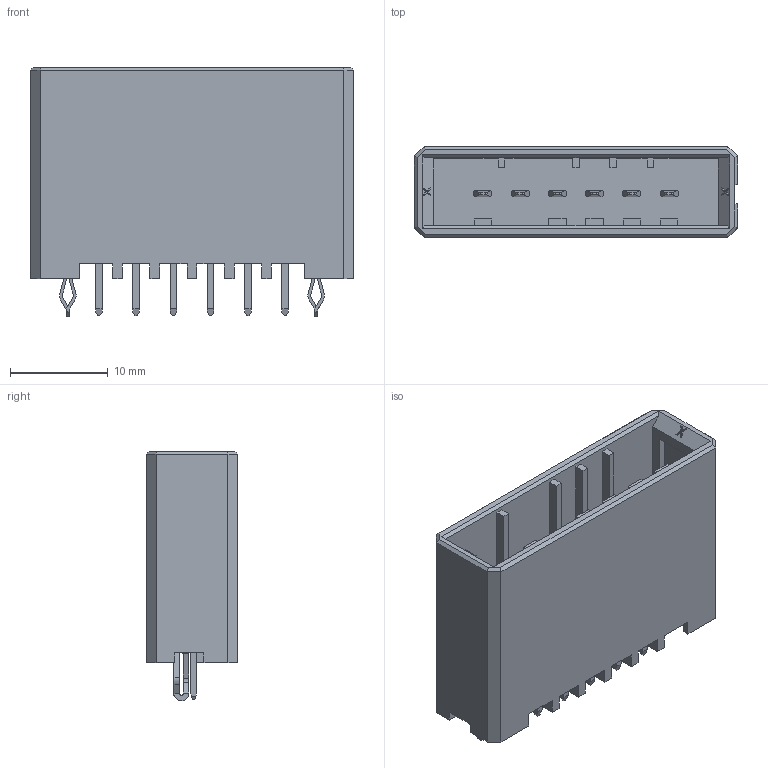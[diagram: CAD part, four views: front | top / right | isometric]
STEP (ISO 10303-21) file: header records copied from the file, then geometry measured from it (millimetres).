
FILE_DESCRIPTION (( 'STEP AP203' ), '1' );
FILE_NAME ('DK-3100S-06V-FA.STEP', '2023-10-13T00:42:38', ( '' ), ( '' ), 'SwSTEP 2.0', 'SolidWorks 2018', '' );
FILE_SCHEMA (( 'CONFIG_CONTROL_DESIGN' ));
Length unit declared in the file: millimetre
Products named in the file (1): DK-3100S-06V-FA
Bounding box: 33.05 x 9.35 x 25.5 mm (x, y, z)
Volume: 3028.7 mm3; surface area: 4420.4 mm2
Topology: 1 solids, 1 shells, 677 faces, 1897 edges, 1258 vertices
Faces by surface type: plane 479, bspline 148, cylinder 50
Entity records: 25810 total; most frequent: CARTESIAN_POINT 9427, ORIENTED_EDGE 3794, DIRECTION 2653, EDGE_CURVE 1897, LINE 1493, VECTOR 1493, VERTEX_POINT 1258, EDGE_LOOP 717
